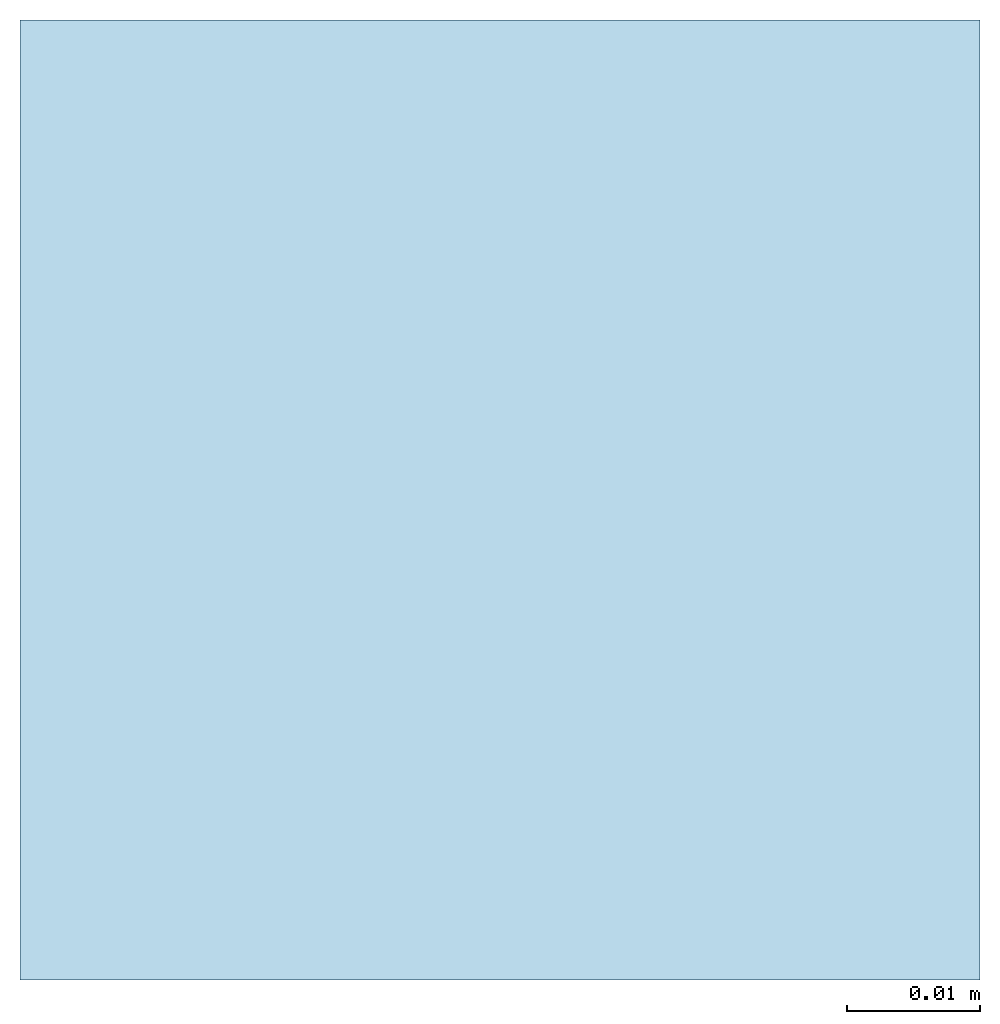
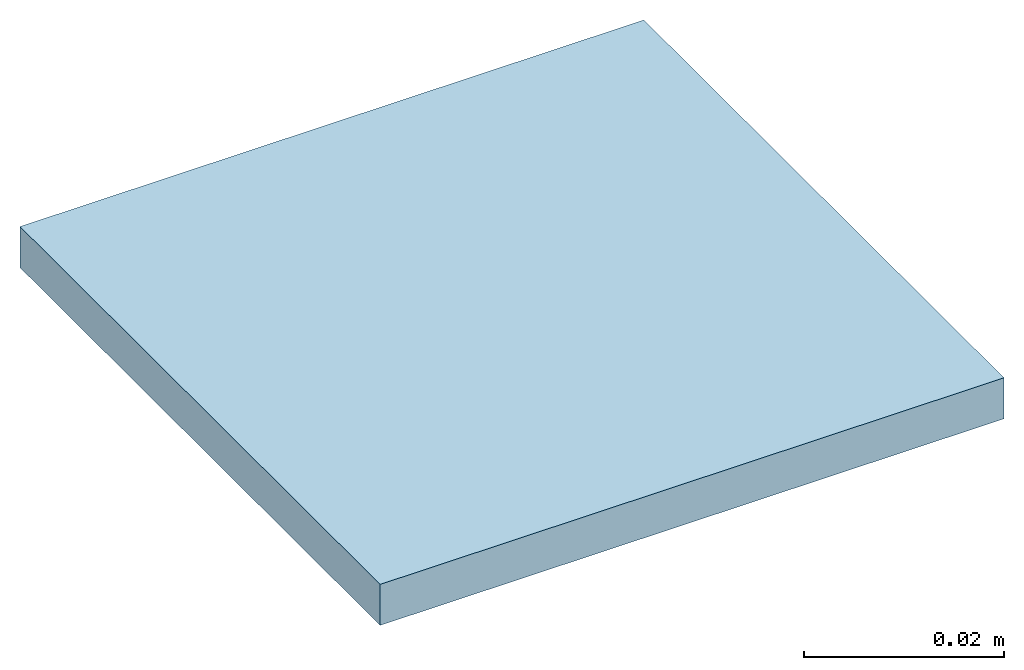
# One storey: 1 plate.
"""IFC2X3 building model written with IfcOpenShell, lengths in millimetres."""

import ifcopenshell
import ifcopenshell.guid

model = None  # the IFC model being written
_history = None  # IfcOwnerHistory: only IFC2X3 demands one
_inside = {}  # id of a spatial element -> (the spatial element, [elements in it])
_under = {}  # id of a project, library or spatial element -> (it, [spatial elements below it])
_declared = {}  # id of a project -> (the project, [libraries it declares])
_typed = {}  # id of a type object -> (the type object, [elements of that type])
_made_of = {}  # id of a material, layer set ... -> (it, [elements and type objects made of it])


def new_model(schema):
    """Start an empty IFC model of exactly this schema.

    Asked for "IFC4X3", IfcOpenShell would pick the latest addendum, in which some entities
    have other attributes; the version numbers below select the first issue.
    IFC2X3 requires an IfcOwnerHistory on every rooted entity: one is made here for all.
    """
    global model, _history
    if schema == "IFC4X3":
        model = ifcopenshell.file(schema_version=(4, 3, 0, 0))
    else:
        model = ifcopenshell.file(schema=schema)
    _inside.clear()
    _under.clear()
    _declared.clear()
    _typed.clear()
    _made_of.clear()
    _history = None
    if model.schema == "IFC2X3":
        org = make("IfcOrganization", Name="unknown")
        user = make(
            "IfcPersonAndOrganization",
            ThePerson=make("IfcPerson", FamilyName="unknown"),
            TheOrganization=org,
        )
        app = make(
            "IfcApplication",
            ApplicationDeveloper=org,
            Version="unknown",
            ApplicationFullName="unknown",
            ApplicationIdentifier="unknown",
        )
        _history = make(
            "IfcOwnerHistory",
            OwningUser=user,
            OwningApplication=app,
            ChangeAction="ADDED",
            CreationDate=0,
        )
    return model


def make(cls, **values):
    """One entity of the class cls with the attributes given. An attribute that is None is left unset."""
    return model.create_entity(
        cls, **{name: value for name, value in values.items() if value is not None}
    )


def entity(cls, *values):
    """Any entity or typed value of the class cls, its attributes in the order of the schema. None: left unset."""
    e = model.create_entity(cls)
    for i, value in enumerate(values):
        if value is not None:
            e[i] = value
    return e


def rooted(cls, **values):
    """An entity with a GlobalId (a new one), such as an element, a storey or a relation."""
    return make(cls, GlobalId=ifcopenshell.guid.new(), OwnerHistory=_history, **values)


def si_unit(unit_type, name, prefix=None):
    """IfcSIUnit, for example si_unit("LENGTHUNIT", "METRE", prefix="MILLI")."""
    return make("IfcSIUnit", UnitType=unit_type, Prefix=prefix, Name=name)


def converted_unit(unit_type, name, factor, base, dimensions=None, offset=None):
    """IfcConversionBasedUnit, such as the inch: factor (a typed value) times the base unit."""
    return make(
        "IfcConversionBasedUnit"
        if offset is None
        else "IfcConversionBasedUnitWithOffset",
        ConversionOffset=offset,
        Dimensions=None
        if dimensions is None
        else entity("IfcDimensionalExponents", *dimensions),
        UnitType=unit_type,
        Name=name,
        ConversionFactor=make(
            "IfcMeasureWithUnit", ValueComponent=factor, UnitComponent=base
        ),
    )


def derived_unit(unit_type, elements):
    """IfcDerivedUnit: a product of units, each with its exponent."""
    return make(
        "IfcDerivedUnit",
        Elements=[
            make("IfcDerivedUnitElement", Unit=unit, Exponent=power)
            for unit, power in elements
        ],
        UnitType=unit_type,
    )


def assignment(units):
    """IfcUnitAssignment: the units of a project."""
    return None if units is None else make("IfcUnitAssignment", Units=units)


def point(xyz):
    """IfcCartesianPoint."""
    return None if xyz is None else make("IfcCartesianPoint", Coordinates=xyz)


def direction(xyz):
    """IfcDirection."""
    return None if xyz is None else make("IfcDirection", DirectionRatios=xyz)


def frame(location, z_axis=None, x_axis=None):
    """IfcAxis2Placement3D, a coordinate frame: its origin and axes. An axis left out is left unset."""
    return make(
        "IfcAxis2Placement3D",
        Location=point(location),
        Axis=direction(z_axis),
        RefDirection=direction(x_axis),
    )


def origin_with_axes():
    """The frame at (0, 0, 0) with the z axis (0, 0, 1) and the x axis (1, 0, 0) written out."""
    return frame((0.0, 0.0, 0.0), z_axis=(0.0, 0.0, 1.0), x_axis=(1.0, 0.0, 0.0))


def place(relative_to, where):
    """IfcLocalPlacement: puts the frame where relative to a parent placement (None: the world)."""
    return make(
        "IfcLocalPlacement", PlacementRelTo=relative_to, RelativePlacement=where
    )


def context(
    kind, dimensions, precision=None, world=None, true_north=None, identifier=None
):
    """IfcGeometricRepresentationContext, for example the 3D "Model" context."""
    return make(
        "IfcGeometricRepresentationContext",
        ContextIdentifier=identifier,
        ContextType=kind,
        CoordinateSpaceDimension=dimensions,
        Precision=precision,
        WorldCoordinateSystem=world,
        TrueNorth=true_north,
    )


def subcontext(parent, identifier, kind, view, scale=None):
    """IfcGeometricRepresentationSubContext, for example "Body" below "Model"."""
    return make(
        "IfcGeometricRepresentationSubContext",
        ContextIdentifier=identifier,
        ContextType=kind,
        ParentContext=parent,
        TargetScale=scale,
        TargetView=view,
    )


def project(units=None, contexts=None):
    """IfcProject with its units and contexts."""
    return rooted(
        "IfcProject",
        Name="project",
        RepresentationContexts=contexts,
        UnitsInContext=assignment(units),
    )


def spatial(cls, under=None, at=None, **own):
    """A site, building, storey or space (cls), placed at a placement, below another one or the project."""
    s = rooted(cls, ObjectPlacement=at, **own)
    if under is not None:
        _under.setdefault(under.id(), (under, []))[1].append(s)
    return s


def faces_of(points, faces, orient=None, outer=None):
    """IfcFace entities. A face is a list of loops; a loop is a list of indices into points, from 0.

    orient and outer hold one flag for each loop. By default every Orientation is true, the
    first loop of a face is its IfcFaceOuterBound and the others are IfcFaceBound.
    """
    made = []
    for i, loops in enumerate(faces):
        bounds = []
        for j, loop in enumerate(loops):
            is_outer = j == 0 if outer is None else outer[i][j]
            bounds.append(
                make(
                    "IfcFaceOuterBound" if is_outer else "IfcFaceBound",
                    Bound=make("IfcPolyLoop", Polygon=[points[k] for k in loop]),
                    Orientation=True if orient is None else orient[i][j],
                )
            )
        made.append(make("IfcFace", Bounds=bounds))
    return made


def faceted_brep(points, faces, orient=None, outer=None, voids=None):
    """IfcFacetedBrep: a solid bounded by flat faces; with voids (closed shells), ...WithVoids."""
    shared = [point(p) for p in points]
    hull = make("IfcClosedShell", CfsFaces=faces_of(shared, faces, orient, outer))
    if voids is None:
        return make("IfcFacetedBrep", Outer=hull)
    return make(
        "IfcFacetedBrepWithVoids",
        Outer=hull,
        Voids=[
            make(cls, CfsFaces=faces_of(shared, fs, o, b)) for cls, fs, o, b in voids
        ],
    )


def shape(context_of_items, identifier, shape_type, items):
    """IfcShapeRepresentation: the items that make up one representation, for example the "Body"."""
    return make(
        "IfcShapeRepresentation",
        ContextOfItems=context_of_items,
        RepresentationIdentifier=identifier,
        RepresentationType=shape_type,
        Items=items,
    )


def material(Name=None, Category=None):
    """IfcMaterial."""
    return make("IfcMaterial", Name=Name, Category=Category)


def made_of(thing, what):
    """Note that an element or type object is made of a material, layer set ...; save() writes the relation."""
    if what is not None:
        _made_of.setdefault(what.id(), (what, []))[1].append(thing)
    return thing


def type_object(cls, material=None, **own):
    """A type object (cls), such as IfcWallType, which elements share."""
    return made_of(rooted(cls, **own), material)


def element(
    cls,
    number,
    at=None,
    inside=None,
    cuts=None,
    type_object=None,
    material=None,
    context=None,
    identifier="Body",
    shape_type=None,
    held_by="IfcProductDefinitionShape",
    body=None,
    shapes=None,
    **own,
):
    """One element of the class cls, such as IfcWall. Its Tag is "e" and its number.

    at: its placement. inside: the storey or other place that contains it. cuts: it is an
    opening in that element (IfcRelVoidsElement). A single representation is given by context,
    identifier, shape_type and body (its items); several are given by shapes. held_by: the class
    of the entity that holds the representations. save() writes the other relations.
    """
    e = rooted(cls, Tag="e%d" % number, ObjectPlacement=at, **own)
    if body is not None:
        shapes = [shape(context, identifier, shape_type, body)]
    if shapes is not None:
        e.Representation = make(held_by, Representations=shapes)
    if inside is not None:
        _inside.setdefault(inside.id(), (inside, []))[1].append(e)
    if cuts is not None:
        rooted(
            "IfcRelVoidsElement", RelatingBuildingElement=cuts, RelatedOpeningElement=e
        )
    if type_object is not None:
        _typed.setdefault(type_object.id(), (type_object, []))[1].append(e)
    return made_of(e, material)


def aggregate(whole, parts):
    """IfcRelAggregates: a whole, such as a stair, and the parts it consists of."""
    return rooted("IfcRelAggregates", RelatingObject=whole, RelatedObjects=parts)


def save(model, path):
    """Write the relations noted so far, then the file.

    IfcRelAggregates (storeys below a building ...), IfcRelContainedInSpatialStructure (elements
    in a storey), IfcRelDefinesByType, IfcRelAssociatesMaterial and IfcRelDeclares: one each for
    every whole, place, type object, material and project.
    """
    for whole, parts in _under.values():
        aggregate(whole, parts)
    for where, things in _inside.values():
        rooted(
            "IfcRelContainedInSpatialStructure",
            RelatedElements=things,
            RelatingStructure=where,
        )
    for kind, things in _typed.values():
        rooted("IfcRelDefinesByType", RelatedObjects=things, RelatingType=kind)
    for what, things in _made_of.values():
        rooted("IfcRelAssociatesMaterial", RelatedObjects=things, RelatingMaterial=what)
    for by, libraries in _declared.values():
        rooted("IfcRelDeclares", RelatingContext=by, RelatedDefinitions=libraries)
    model.write(path)


model = new_model("IFC2X3")

# Units and contexts
model_context = context("Model", 3, precision=0.01, world=frame((0.0, 4.29681676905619e-09, 0.0)), true_north=direction((4.01073788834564e-13, 1.0)))
plan_context = context("Plan", 3, precision=0.01, world=frame((0.0, 4.29681676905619e-09, 0.0)), true_north=direction((4.01073788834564e-13, 1.0)))
body_context = subcontext(model_context, "Body", "Model", "MODEL_VIEW")
ifc_project = project(units=[converted_unit("PLANEANGLEUNIT", "DEGREE", entity("IfcPositiveLengthMeasure", 0.0174532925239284), si_unit("PLANEANGLEUNIT", "RADIAN"), dimensions=[0, 0, 0, 0, 0, 0, 0]), si_unit("AREAUNIT", "SQUARE_METRE"), si_unit("LENGTHUNIT", "METRE", prefix="MILLI"), si_unit("MASSUNIT", "GRAM", prefix="KILO"), si_unit("POWERUNIT", "WATT"), si_unit("PRESSUREUNIT", "PASCAL", prefix="KILO"), si_unit("FORCEUNIT", "NEWTON", prefix="KILO"), si_unit("ELECTRICVOLTAGEUNIT", "VOLT"), si_unit("ELECTRICCURRENTUNIT", "AMPERE"), si_unit("THERMODYNAMICTEMPERATUREUNIT", "DEGREE_CELSIUS"), si_unit("TIMEUNIT", "SECOND"), si_unit("VOLUMEUNIT", "CUBIC_METRE"), derived_unit("LINEARVELOCITYUNIT", [(si_unit("LENGTHUNIT", "METRE"), 1), (si_unit("TIMEUNIT", "SECOND"), -1)]), derived_unit("VOLUMETRICFLOWRATEUNIT", [(si_unit("VOLUMEUNIT", "CUBIC_METRE"), 1), (si_unit("TIMEUNIT", "SECOND"), -1)]), derived_unit("THERMALTRANSMITTANCEUNIT", [(si_unit("POWERUNIT", "WATT"), 1), (si_unit("THERMODYNAMICTEMPERATUREUNIT", "KELVIN"), -1), (si_unit("AREAUNIT", "SQUARE_METRE"), -1)]), derived_unit("SOUNDPRESSUREUNIT", [(si_unit("PRESSUREUNIT", "PASCAL"), 1)])], contexts=[model_context, plan_context])

# Site, building, storey
site_placement = place(None, frame((0.0, -4.29681676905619e-09, 0.0), z_axis=(0.0, 0.0, 1.0), x_axis=(1.0, 0.0, 0.0)))
site = spatial("IfcSite", under=ifc_project, at=site_placement, Name="Gardermoen", CompositionType="ELEMENT")
building_placement = place(site_placement, frame((0.0, 4.29681676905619e-09, 0.0), z_axis=(0.0, 0.0, 1.0), x_axis=(1.0, 0.0, 0.0)))
building = spatial("IfcBuilding", under=site, at=building_placement, Name="TS", CompositionType="ELEMENT")
storey_placement = place(building_placement, origin_with_axes())
storey = spatial("IfcBuildingStorey", under=building, at=storey_placement, Name="D", CompositionType="ELEMENT", Elevation=0.0)

# Plate
ifc_material = material(Name="STEEL/S355")
plate_type = type_object("IfcPlateType", Name="PL5*72", PredefinedType="NOTDEFINED")
plate_placement = place(storey_placement, frame((717587.996105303, 443744.300196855, 210497.499994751), z_axis=(9.99999902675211e-08, -0.999999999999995, 0.0), x_axis=(-0.999999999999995, -9.99999902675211e-08, 0.0)))
element("IfcPlate", 1, at=plate_placement, inside=storey, type_object=plate_type, material=ifc_material, Name="STÅLSØYLE", ObjectType="PL5*72", context=body_context, shape_type="Brep", body=[
    faceted_brep([(0.0, -2.5, -1.16415321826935e-10), (-1.16415321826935e-10, -2.5, 71.9999999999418), (-1.16415321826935e-10, 2.5, 72.0), (0.0, 2.5, 0.0), (72.0, -2.5, 71.9999999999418), (72.0, 2.5, 72.0), (72.0, -2.5, -1.16415321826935e-10), (72.0, 2.5, 0.0)], [[[0, 1, 2, 3]], [[1, 4, 5, 2]], [[4, 6, 7, 5]], [[6, 0, 3, 7]], [[5, 7, 3, 2]], [[6, 4, 1, 0]]]),
])

save(model, "model.ifc")
